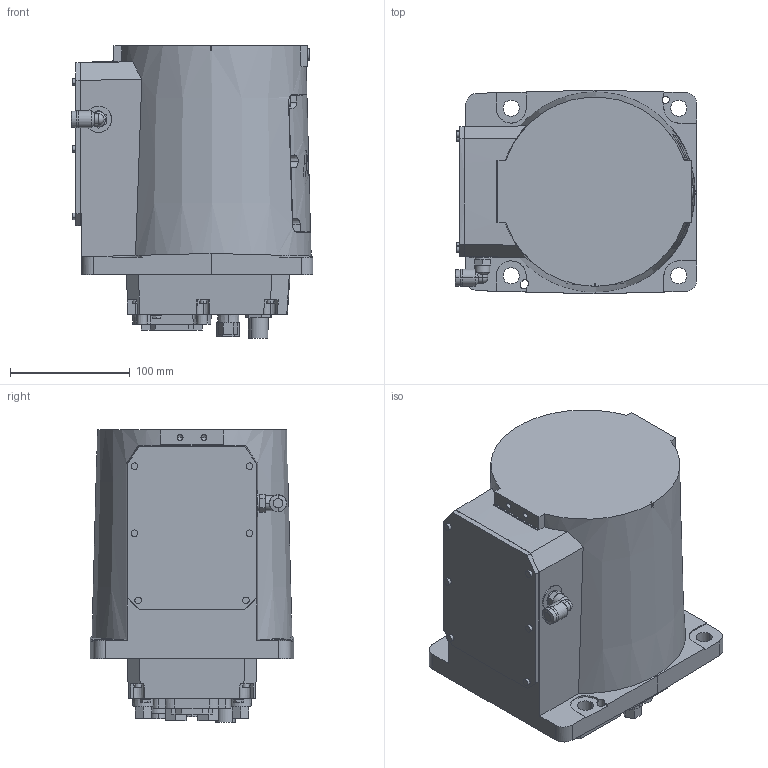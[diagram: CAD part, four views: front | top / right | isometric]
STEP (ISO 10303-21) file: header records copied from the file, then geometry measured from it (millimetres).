
FILE_DESCRIPTION (( 'STEP AP214' ), '1' );
FILE_NAME ('IRB920T_6kg-550-145-CR-BTM_OmniCore_rev00_LINK0_CAD.step', '2021-10-28T02:19:11', ( '' ), ( '' ), 'SwSTEP 2.0', 'SolidWorks 2018', '' );
FILE_SCHEMA (( 'AUTOMOTIVE_DESIGN' ));
Length unit declared in the file: millimetre
Products named in the file (1): IRB920T_6kg-550-145-CR-BTM_OmniCore_rev00_LINK0_CAD
Bounding box: 201.75 x 170 x 244.23 mm (x, y, z)
Volume: 5300290 mm3; surface area: 222478.7 mm2
Topology: 1 solids, 1 shells, 913 faces, 2376 edges, 1563 vertices
Faces by surface type: plane 529, bspline 192, cylinder 119, cone 72, sphere 1
Entity records: 34866 total; most frequent: CARTESIAN_POINT 13838, ORIENTED_EDGE 4732, DIRECTION 3515, EDGE_CURVE 2366, VERTEX_POINT 1562, VECTOR 1463, LINE 1463, EDGE_LOOP 1032
